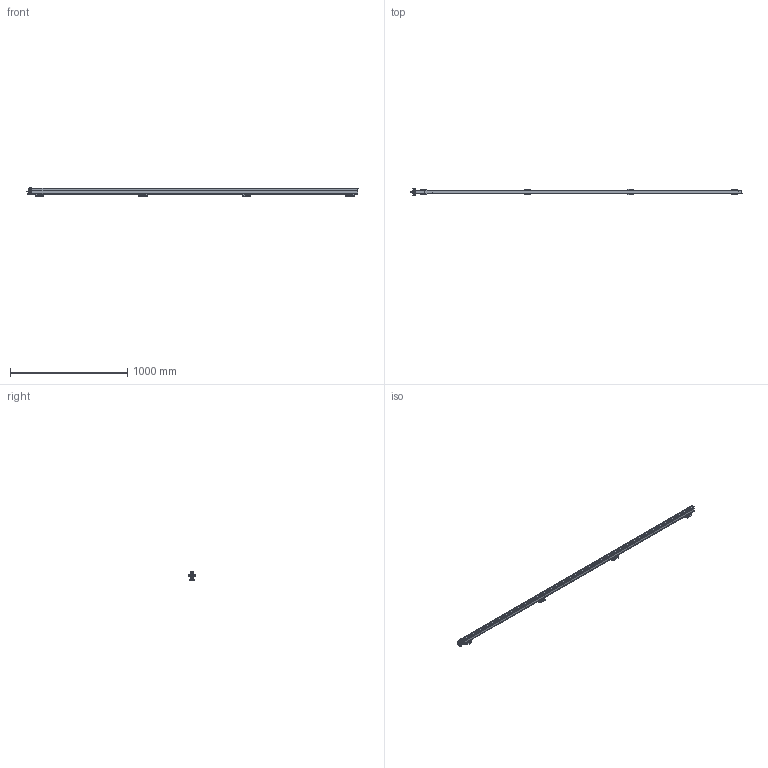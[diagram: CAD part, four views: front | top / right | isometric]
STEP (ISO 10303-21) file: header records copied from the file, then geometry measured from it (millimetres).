
FILE_DESCRIPTION(/* description */ (''),/* implementation_level */ '2;1');
FILE_NAME(/* name */ 'PERFORMAXEASYEX_2610_3D_GB',/* time_stamp */ '2017-05-31T09:54:57+02:00',/* author */ (''),/* organization */ (''),/* preprocessor_version */ 'ST-DEVELOPER v15.7',/* originating_system */ 'HiCAD 2015 2002.1 Build 408',/* authorisation */ '');
FILE_SCHEMA (('AUTOMOTIVE_DESIGN { 1 0 10303 214 1 1 1 1 }'));
Length unit declared in the file: millimetre
Products named in the file (75): Root; -_Performax (IQ) Easy Ex 2610 eff (Hybrid + Speed); -_LED; -_PROFILE; -_POTTING; -_CAP DE; -_CAP CE; -_CABLE; -_PIN; -_COVER; 4532000100_Mounting bracket bars; -_Side piece; -_Slide piece; -_Bracket small; DIN 13-M3; DIN 76-M3; 2047507823_PE connection; DIN 916-M4x20-45H_Set screws; GEWINDE; ISO 8738-4-160 HV_Washers for studs; ISO 4032-M4-10_Hexagon nuts; DIN 127-A 4-FSt_Washers; 2047493713_Cable exits; -_Exit K; -_Clip; -_Gland body; -_Exit S; -_Exit Q; -_Washer ø20mm, 5mm thick for corr. conduit (exit
 Q); -_Exit I; -_Exit U; -_Exit A; Thread_2
Assembly tree (74 placements, depth 5):
  Root
    -_Performax (IQ) Easy Ex 2610 eff (Hybrid + Speed)
      -_LED
      -_PROFILE
      -_POTTING
      -_CAP DE
      -_CAP CE
      -_CABLE
      -_PIN
      -_PIN
      -_COVER
      4532000100_Mounting bracket bars
        -_Side piece
        -_Side piece
        -_Slide piece
        -_Bracket small
          DIN 13-M3
          DIN 13-M3
          DIN 76-M3
          DIN 76-M3
      4532000100_Mounting bracket bars
        -_Side piece
        -_Side piece
        -_Slide piece
        -_Bracket small
          DIN 13-M3
          DIN 13-M3
          DIN 76-M3
          DIN 76-M3
      4532000100_Mounting bracket bars
        -_Side piece
        -_Side piece
        -_Slide piece
        -_Bracket small
          DIN 13-M3
          DIN 13-M3
          DIN 76-M3
          DIN 76-M3
      4532000100_Mounting bracket bars
        -_Side piece
        -_Side piece
        -_Slide piece
        -_Bracket small
          DIN 13-M3
          DIN 13-M3
          DIN 76-M3
          DIN 76-M3
      2047507823_PE connection
        DIN 916-M4x20-45H_Set screws
          GEWINDE
        ISO 8738-4-160 HV_Washers for studs
        ISO 4032-M4-10_Hexagon nuts
          GEWINDE
        DIN 127-A 4-FSt_Washers
        ISO 4032-M4-10_Hexagon nuts
          GEWINDE
      2047493713_Cable exits
        -_Exit K
          -_Clip
          -_Gland body
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Bounding box: 2832.4 x 58.79 x 68.9 mm (x, y, z)
Volume: 3410753.5 mm3; surface area: 958930.9 mm2
Topology: 63 solids, 75 shells, 3239 faces, 8266 edges, 4990 vertices
Faces by surface type: plane 1391, cylinder 1323, torus 177, sphere 165, bspline 128, cone 55
Full cylindrical faces by diameter (mm): 2.387 x16, 3 x32, 3.141 x4, 4 x5, 4.3 x1, 5.4 x2, 5.5 x20, 8 x2, 11.3 x4, 12.5 x4, 13 x1, 14.6 x5, 15.1 x5, 18.4 x4, 20 x7, 20.2 x4
Entity records: 176187 total; most frequent: CARTESIAN_POINT 35942, DIRECTION 16546, PRESENTATION_STYLE_ASSIGNMENT 15725, OVER_RIDING_STYLED_ITEM 15663, DRAUGHTING_PRE_DEFINED_CURVE_FONT 15640, CURVE_STYLE 15640, ORIENTED_EDGE 15640, EDGE_CURVE 7820
